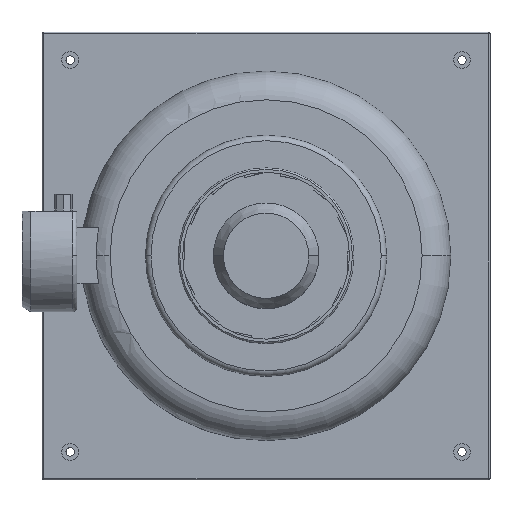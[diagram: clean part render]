
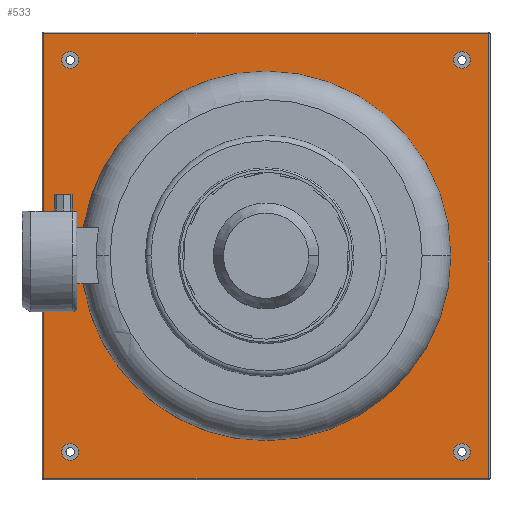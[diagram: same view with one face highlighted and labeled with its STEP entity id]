
A CAD part, top view. The second image highlights one B-rep face of the part: STEP entity #533.
In plain terms, the highlighted planar face has unit normal (0, 0, 1).
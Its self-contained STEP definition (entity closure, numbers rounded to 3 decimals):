
#533=ADVANCED_FACE('',(#1087,#1088,#1089,#1090,#1091,#1092),#1093,.T.);
#1087=FACE_BOUND('',#1642,.T.);
#1088=FACE_BOUND('',#1643,.T.);
#1089=FACE_BOUND('',#1644,.T.);
#1090=FACE_BOUND('',#1645,.T.);
#1091=FACE_BOUND('',#1646,.T.);
#1092=FACE_OUTER_BOUND('',#1647,.T.);
#1093=PLANE('',#1648);
#1642=EDGE_LOOP('',(#3288,#3289));
#1643=EDGE_LOOP('',(#3290,#3291));
#1644=EDGE_LOOP('',(#3292,#3293));
#1645=EDGE_LOOP('',(#3294,#3295));
#1646=EDGE_LOOP('',(#3296,#3297));
#1647=EDGE_LOOP('',(#3298,#3299,#3300,#3301));
#1648=AXIS2_PLACEMENT_3D('',#3302,#3303,#3304);
#3288=ORIENTED_EDGE('',*,*,#3455,.T.);
#3289=ORIENTED_EDGE('',*,*,#3550,.T.);
#3290=ORIENTED_EDGE('',*,*,#3358,.T.);
#3291=ORIENTED_EDGE('',*,*,#3884,.T.);
#3292=ORIENTED_EDGE('',*,*,#3348,.T.);
#3293=ORIENTED_EDGE('',*,*,#3891,.T.);
#3294=ORIENTED_EDGE('',*,*,#3338,.T.);
#3295=ORIENTED_EDGE('',*,*,#3898,.T.);
#3296=ORIENTED_EDGE('',*,*,#3328,.T.);
#3297=ORIENTED_EDGE('',*,*,#3905,.T.);
#3298=ORIENTED_EDGE('',*,*,#3977,.F.);
#3299=ORIENTED_EDGE('',*,*,#3917,.F.);
#3300=ORIENTED_EDGE('',*,*,#3979,.T.);
#3301=ORIENTED_EDGE('',*,*,#3962,.T.);
#3302=CARTESIAN_POINT('',(0.0,0.0,-59.0));
#3303=DIRECTION('',(0.0,-0.0,1.0));
#3304=DIRECTION('',(0.,1.0,0.0));
#3328=EDGE_CURVE('',#3995,#3992,#3996,.T.);
#3338=EDGE_CURVE('',#4013,#4010,#4014,.T.);
#3348=EDGE_CURVE('',#4031,#4028,#4032,.T.);
#3358=EDGE_CURVE('',#4049,#4046,#4050,.T.);
#3455=EDGE_CURVE('',#4226,#4223,#4227,.T.);
#3550=EDGE_CURVE('',#4223,#4226,#4367,.T.);
#3884=EDGE_CURVE('',#4046,#4049,#4841,.T.);
#3891=EDGE_CURVE('',#4028,#4031,#4848,.T.);
#3898=EDGE_CURVE('',#4010,#4013,#4855,.T.);
#3905=EDGE_CURVE('',#3992,#3995,#4862,.T.);
#3917=EDGE_CURVE('',#4866,#4879,#4880,.T.);
#3962=EDGE_CURVE('',#4939,#4898,#4943,.T.);
#3977=EDGE_CURVE('',#4879,#4898,#4958,.T.);
#3979=EDGE_CURVE('',#4866,#4939,#4960,.T.);
#3992=VERTEX_POINT('',#4975);
#3995=VERTEX_POINT('',#4979);
#3996=CIRCLE('',#4980,7.5);
#4010=VERTEX_POINT('',#4997);
#4013=VERTEX_POINT('',#5001);
#4014=CIRCLE('',#5002,7.5);
#4028=VERTEX_POINT('',#5019);
#4031=VERTEX_POINT('',#5023);
#4032=CIRCLE('',#5024,7.5);
#4046=VERTEX_POINT('',#5041);
#4049=VERTEX_POINT('',#5045);
#4050=CIRCLE('',#5046,7.5);
#4223=VERTEX_POINT('',#5248);
#4226=VERTEX_POINT('',#5252);
#4227=CIRCLE('',#5253,165.0);
#4367=CIRCLE('',#5597,165.0);
#4841=CIRCLE('',#6281,7.5);
#4848=CIRCLE('',#6288,7.5);
#4855=CIRCLE('',#6295,7.5);
#4862=CIRCLE('',#6302,7.5);
#4866=VERTEX_POINT('',#6306);
#4879=VERTEX_POINT('',#6321);
#4880=LINE('',#6322,#6323);
#4898=VERTEX_POINT('',#6344);
#4939=VERTEX_POINT('',#6393);
#4943=LINE('',#6397,#6398);
#4958=LINE('',#6420,#6421);
#4960=LINE('',#6423,#6424);
#4975=CARTESIAN_POINT('',(-175.0,182.5,-59.0));
#4979=CARTESIAN_POINT('',(-175.0,167.5,-59.0));
#4980=AXIS2_PLACEMENT_3D('',#6436,#6437,#6438);
#4997=CARTESIAN_POINT('',(-175.0,-167.5,-59.0));
#5001=CARTESIAN_POINT('',(-175.0,-182.5,-59.0));
#5002=AXIS2_PLACEMENT_3D('',#6452,#6453,#6454);
#5019=CARTESIAN_POINT('',(175.0,-167.5,-59.0));
#5023=CARTESIAN_POINT('',(175.0,-182.5,-59.0));
#5024=AXIS2_PLACEMENT_3D('',#6468,#6469,#6470);
#5041=CARTESIAN_POINT('',(175.0,182.5,-59.0));
#5045=CARTESIAN_POINT('',(175.0,167.5,-59.0));
#5046=AXIS2_PLACEMENT_3D('',#6484,#6485,#6486);
#5248=CARTESIAN_POINT('',(0.,165.0,-59.0));
#5252=CARTESIAN_POINT('',(0.,-165.0,-59.0));
#5253=AXIS2_PLACEMENT_3D('',#6679,#6680,#6681);
#5597=AXIS2_PLACEMENT_3D('',#6795,#6796,#6797);
#6281=AXIS2_PLACEMENT_3D('',#7107,#7108,#7109);
#6288=AXIS2_PLACEMENT_3D('',#7119,#7120,#7121);
#6295=AXIS2_PLACEMENT_3D('',#7131,#7132,#7133);
#6302=AXIS2_PLACEMENT_3D('',#7143,#7144,#7145);
#6306=CARTESIAN_POINT('',(198.5,198.5,-59.0));
#6321=CARTESIAN_POINT('',(198.5,-198.5,-59.0));
#6322=CARTESIAN_POINT('',(198.5,0.,-59.0));
#6323=VECTOR('',#7163,1.0);
#6344=CARTESIAN_POINT('',(-198.5,-198.5,-59.0));
#6393=CARTESIAN_POINT('',(-198.5,198.5,-59.0));
#6397=CARTESIAN_POINT('',(-198.5,0.,-59.0));
#6398=VECTOR('',#7235,1.0);
#6420=CARTESIAN_POINT('',(0.,-198.5,-59.0));
#6421=VECTOR('',#7243,1.0);
#6423=CARTESIAN_POINT('',(0.,198.5,-59.0));
#6424=VECTOR('',#7244,1.0);
#6436=CARTESIAN_POINT('',(-175.0,175.0,-59.0));
#6437=DIRECTION('',(0.0,0.0,-1.0));
#6438=DIRECTION('',(0.,1.0,0.0));
#6452=CARTESIAN_POINT('',(-175.0,-175.0,-59.0));
#6453=DIRECTION('',(0.0,0.0,-1.0));
#6454=DIRECTION('',(0.,1.0,0.0));
#6468=CARTESIAN_POINT('',(175.0,-175.0,-59.0));
#6469=DIRECTION('',(0.0,0.0,-1.0));
#6470=DIRECTION('',(0.,1.0,0.0));
#6484=CARTESIAN_POINT('',(175.0,175.0,-59.0));
#6485=DIRECTION('',(0.0,0.0,-1.0));
#6486=DIRECTION('',(0.,1.0,0.0));
#6679=CARTESIAN_POINT('',(0.0,0.0,-59.0));
#6680=DIRECTION('',(0.0,0.0,-1.0));
#6681=DIRECTION('',(0.,1.0,0.0));
#6795=CARTESIAN_POINT('',(0.0,0.0,-59.0));
#6796=DIRECTION('',(0.0,0.0,-1.0));
#6797=DIRECTION('',(0.,1.0,0.0));
#7107=CARTESIAN_POINT('',(175.0,175.0,-59.0));
#7108=DIRECTION('',(0.0,0.0,-1.0));
#7109=DIRECTION('',(0.,1.0,0.0));
#7119=CARTESIAN_POINT('',(175.0,-175.0,-59.0));
#7120=DIRECTION('',(0.0,0.0,-1.0));
#7121=DIRECTION('',(0.,1.0,0.0));
#7131=CARTESIAN_POINT('',(-175.0,-175.0,-59.0));
#7132=DIRECTION('',(0.0,0.0,-1.0));
#7133=DIRECTION('',(0.,1.0,0.0));
#7143=CARTESIAN_POINT('',(-175.0,175.0,-59.0));
#7144=DIRECTION('',(0.0,0.0,-1.0));
#7145=DIRECTION('',(0.,1.0,0.0));
#7163=DIRECTION('',(0.,-1.0,0.));
#7235=DIRECTION('',(0.,-1.0,0.));
#7243=DIRECTION('',(-1.0,0.,0.));
#7244=DIRECTION('',(-1.0,0.,0.));
